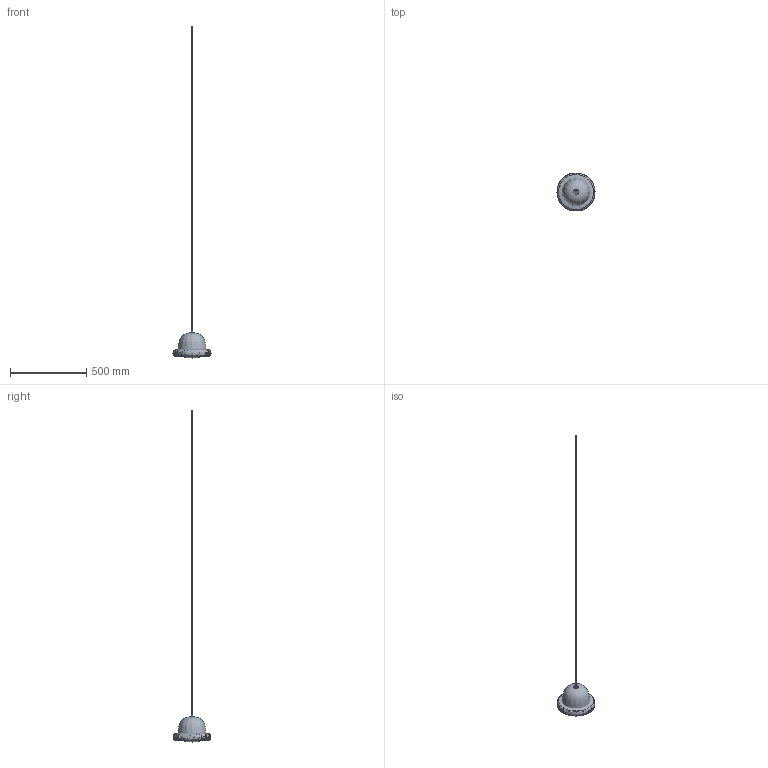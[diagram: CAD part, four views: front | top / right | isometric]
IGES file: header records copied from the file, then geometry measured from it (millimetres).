
Global section: file name: /Users/064_p/Desktop/3d data_02/ILKW_MAGRITTE25_Pendant_3D.igs; native system: Rhinoceros ( Jul  7 2025 ); preprocessor: Trout Lake IGES 012 Jul  7 2025; date: 260828.085437; units: millimetre
Bounding box: 249.96 x 249.82 x 2183.71 mm (x, y, z)
Surface area: 199432.3 mm2 (no closed solid volume)
Topology: 0 solids, 0 shells, 13 faces, 47 edges, 40 vertices
Faces by surface type: bspline 13
